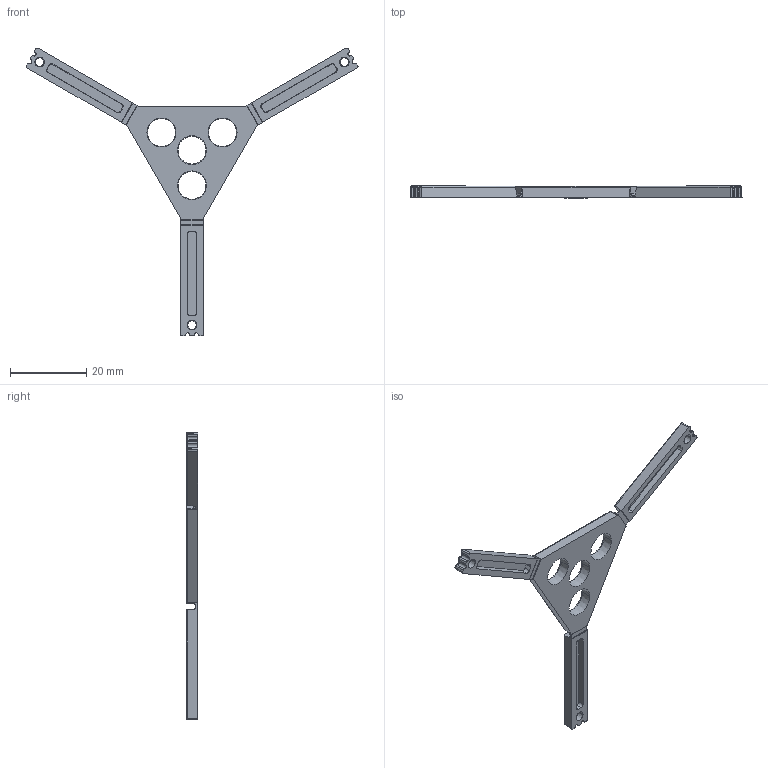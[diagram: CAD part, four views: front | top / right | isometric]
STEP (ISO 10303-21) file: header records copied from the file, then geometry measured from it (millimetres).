
FILE_DESCRIPTION((''),'2;1');
FILE_NAME('SUPPORT_GUIDE_PROBE_RLV','2026-05-21T11:11:32',('mthomps2'),(''),'CREO PARAMETRIC BY PTC INC, 2022284','CREO PARAMETRIC BY PTC INC, 2022284','');
FILE_SCHEMA(('CONFIG_CONTROL_DESIGN','SHAPE_APPEARANCE_LAYERS_GROUPS'));
Length unit declared in the file: inch
Products named in the file (1): SUPPORT_GUIDE_PROBE_RLV
Bounding box: 87.31 x 3.05 x 75.72 mm (x, y, z)
Volume: 2663.2 mm3; surface area: 3412.9 mm2
Topology: 1 solids, 1 shells, 171 faces, 495 edges, 364 vertices
Faces by surface type: plane 56, cylinder 39, cone 32, bspline 30, torus 14
Entity records: 7601 total; most frequent: CARTESIAN_POINT 3037, ORIENTED_EDGE 920, DIRECTION 787, EDGE_CURVE 460, VERTEX_POINT 294, AXIS2_PLACEMENT_3D 264, VECTOR 259, LINE 259
